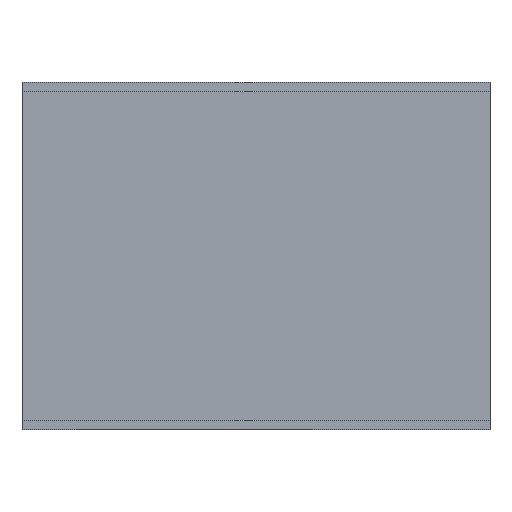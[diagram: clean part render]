
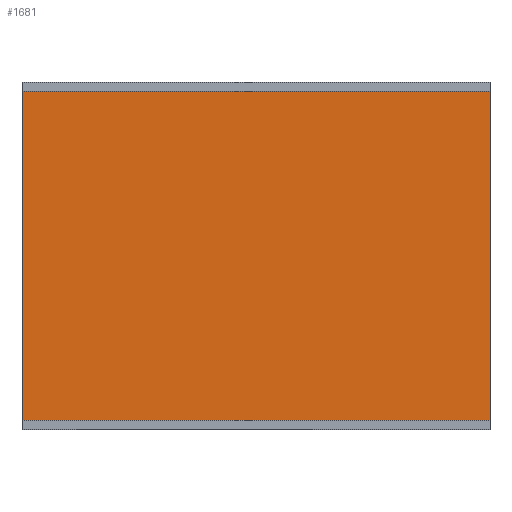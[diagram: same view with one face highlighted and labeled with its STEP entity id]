
A CAD part, top view. The second image highlights one B-rep face of the part: STEP entity #1681.
In plain terms, the highlighted planar face has unit normal (0, 0, 1).
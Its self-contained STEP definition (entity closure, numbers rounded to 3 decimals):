
#54 = VERTEX_POINT('',#55);
#55 = CARTESIAN_POINT('',(0.,3.,100.));
#62 = PLANE('',#63);
#63 = AXIS2_PLACEMENT_3D('',#64,#65,#66);
#64 = CARTESIAN_POINT('',(0.,3.,0.));
#65 = DIRECTION('',(1.,0.,0.));
#66 = DIRECTION('',(0.,0.,1.));
#74 = PLANE('',#75);
#75 = AXIS2_PLACEMENT_3D('',#76,#77,#78);
#76 = CARTESIAN_POINT('',(0.,3.,0.));
#77 = DIRECTION('',(0.,1.,0.));
#78 = DIRECTION('',(0.,0.,1.));
#115 = VERTEX_POINT('',#116);
#116 = CARTESIAN_POINT('',(0.,112.,100.));
#130 = PLANE('',#131);
#131 = AXIS2_PLACEMENT_3D('',#132,#133,#134);
#132 = CARTESIAN_POINT('',(0.,112.,0.));
#133 = DIRECTION('',(0.,1.,0.));
#134 = DIRECTION('',(0.,0.,1.));
#142 = EDGE_CURVE('',#54,#115,#143,.T.);
#143 = SURFACE_CURVE('',#144,(#148,#155),.PCURVE_S1.);
#144 = LINE('',#145,#146);
#145 = CARTESIAN_POINT('',(0.,3.,100.));
#146 = VECTOR('',#147,1.);
#147 = DIRECTION('',(0.,1.,0.));
#148 = PCURVE('',#62,#149);
#149 = DEFINITIONAL_REPRESENTATION('',(#150),#154);
#150 = LINE('',#151,#152);
#151 = CARTESIAN_POINT('',(100.,0.));
#152 = VECTOR('',#153,1.);
#153 = DIRECTION('',(0.,-1.));
#154 = ( GEOMETRIC_REPRESENTATION_CONTEXT(2) 
PARAMETRIC_REPRESENTATION_CONTEXT() REPRESENTATION_CONTEXT('2D SPACE',''
  ) );
#155 = PCURVE('',#156,#161);
#156 = PLANE('',#157);
#157 = AXIS2_PLACEMENT_3D('',#158,#159,#160);
#158 = CARTESIAN_POINT('',(0.,3.,100.));
#159 = DIRECTION('',(0.,0.,1.));
#160 = DIRECTION('',(1.,0.,0.));
#161 = DEFINITIONAL_REPRESENTATION('',(#162),#166);
#162 = LINE('',#163,#164);
#163 = CARTESIAN_POINT('',(0.,0.));
#164 = VECTOR('',#165,1.);
#165 = DIRECTION('',(0.,1.));
#166 = ( GEOMETRIC_REPRESENTATION_CONTEXT(2) 
PARAMETRIC_REPRESENTATION_CONTEXT() REPRESENTATION_CONTEXT('2D SPACE',''
  ) );
#1527 = EDGE_CURVE('',#54,#1528,#1530,.T.);
#1528 = VERTEX_POINT('',#1529);
#1529 = CARTESIAN_POINT('',(155.,3.,100.));
#1530 = SURFACE_CURVE('',#1531,(#1535,#1542),.PCURVE_S1.);
#1531 = LINE('',#1532,#1533);
#1532 = CARTESIAN_POINT('',(0.,3.,100.));
#1533 = VECTOR('',#1534,1.);
#1534 = DIRECTION('',(1.,0.,0.));
#1535 = PCURVE('',#74,#1536);
#1536 = DEFINITIONAL_REPRESENTATION('',(#1537),#1541);
#1537 = LINE('',#1538,#1539);
#1538 = CARTESIAN_POINT('',(100.,0.));
#1539 = VECTOR('',#1540,1.);
#1540 = DIRECTION('',(0.,1.));
#1541 = ( GEOMETRIC_REPRESENTATION_CONTEXT(2) 
PARAMETRIC_REPRESENTATION_CONTEXT() REPRESENTATION_CONTEXT('2D SPACE',''
  ) );
#1542 = PCURVE('',#156,#1543);
#1543 = DEFINITIONAL_REPRESENTATION('',(#1544),#1548);
#1544 = LINE('',#1545,#1546);
#1545 = CARTESIAN_POINT('',(0.,0.));
#1546 = VECTOR('',#1547,1.);
#1547 = DIRECTION('',(1.,0.));
#1548 = ( GEOMETRIC_REPRESENTATION_CONTEXT(2) 
PARAMETRIC_REPRESENTATION_CONTEXT() REPRESENTATION_CONTEXT('2D SPACE',''
  ) );
#1564 = PLANE('',#1565);
#1565 = AXIS2_PLACEMENT_3D('',#1566,#1567,#1568);
#1566 = CARTESIAN_POINT('',(155.,3.,0.));
#1567 = DIRECTION('',(1.,0.,0.));
#1568 = DIRECTION('',(0.,0.,1.));
#1681 = ADVANCED_FACE('',(#1682),#156,.T.);
#1682 = FACE_BOUND('',#1683,.T.);
#1683 = EDGE_LOOP('',(#1684,#1685,#1686,#1709));
#1684 = ORIENTED_EDGE('',*,*,#142,.F.);
#1685 = ORIENTED_EDGE('',*,*,#1527,.T.);
#1686 = ORIENTED_EDGE('',*,*,#1687,.T.);
#1687 = EDGE_CURVE('',#1528,#1688,#1690,.T.);
#1688 = VERTEX_POINT('',#1689);
#1689 = CARTESIAN_POINT('',(155.,112.,100.));
#1690 = SURFACE_CURVE('',#1691,(#1695,#1702),.PCURVE_S1.);
#1691 = LINE('',#1692,#1693);
#1692 = CARTESIAN_POINT('',(155.,3.,100.));
#1693 = VECTOR('',#1694,1.);
#1694 = DIRECTION('',(0.,1.,0.));
#1695 = PCURVE('',#156,#1696);
#1696 = DEFINITIONAL_REPRESENTATION('',(#1697),#1701);
#1697 = LINE('',#1698,#1699);
#1698 = CARTESIAN_POINT('',(155.,0.));
#1699 = VECTOR('',#1700,1.);
#1700 = DIRECTION('',(0.,1.));
#1701 = ( GEOMETRIC_REPRESENTATION_CONTEXT(2) 
PARAMETRIC_REPRESENTATION_CONTEXT() REPRESENTATION_CONTEXT('2D SPACE',''
  ) );
#1702 = PCURVE('',#1564,#1703);
#1703 = DEFINITIONAL_REPRESENTATION('',(#1704),#1708);
#1704 = LINE('',#1705,#1706);
#1705 = CARTESIAN_POINT('',(100.,0.));
#1706 = VECTOR('',#1707,1.);
#1707 = DIRECTION('',(0.,-1.));
#1708 = ( GEOMETRIC_REPRESENTATION_CONTEXT(2) 
PARAMETRIC_REPRESENTATION_CONTEXT() REPRESENTATION_CONTEXT('2D SPACE',''
  ) );
#1709 = ORIENTED_EDGE('',*,*,#1710,.F.);
#1710 = EDGE_CURVE('',#115,#1688,#1711,.T.);
#1711 = SURFACE_CURVE('',#1712,(#1716,#1723),.PCURVE_S1.);
#1712 = LINE('',#1713,#1714);
#1713 = CARTESIAN_POINT('',(0.,112.,100.));
#1714 = VECTOR('',#1715,1.);
#1715 = DIRECTION('',(1.,0.,0.));
#1716 = PCURVE('',#156,#1717);
#1717 = DEFINITIONAL_REPRESENTATION('',(#1718),#1722);
#1718 = LINE('',#1719,#1720);
#1719 = CARTESIAN_POINT('',(0.,109.));
#1720 = VECTOR('',#1721,1.);
#1721 = DIRECTION('',(1.,0.));
#1722 = ( GEOMETRIC_REPRESENTATION_CONTEXT(2) 
PARAMETRIC_REPRESENTATION_CONTEXT() REPRESENTATION_CONTEXT('2D SPACE',''
  ) );
#1723 = PCURVE('',#130,#1724);
#1724 = DEFINITIONAL_REPRESENTATION('',(#1725),#1729);
#1725 = LINE('',#1726,#1727);
#1726 = CARTESIAN_POINT('',(100.,0.));
#1727 = VECTOR('',#1728,1.);
#1728 = DIRECTION('',(0.,1.));
#1729 = ( GEOMETRIC_REPRESENTATION_CONTEXT(2) 
PARAMETRIC_REPRESENTATION_CONTEXT() REPRESENTATION_CONTEXT('2D SPACE',''
  ) );
